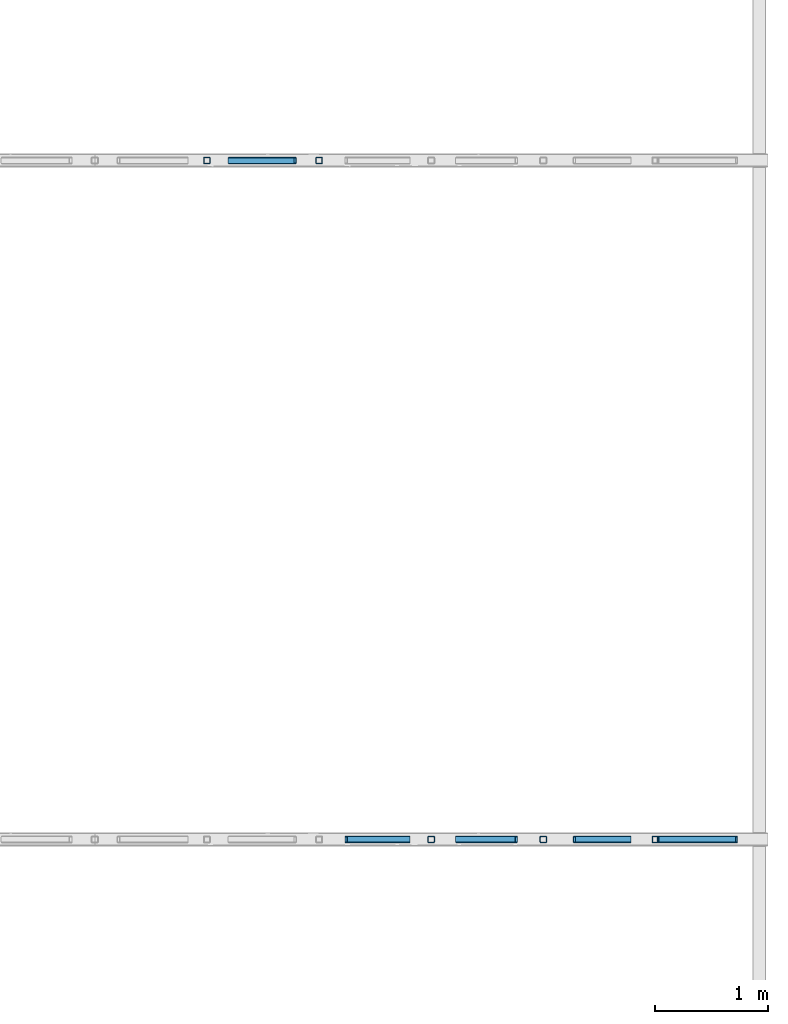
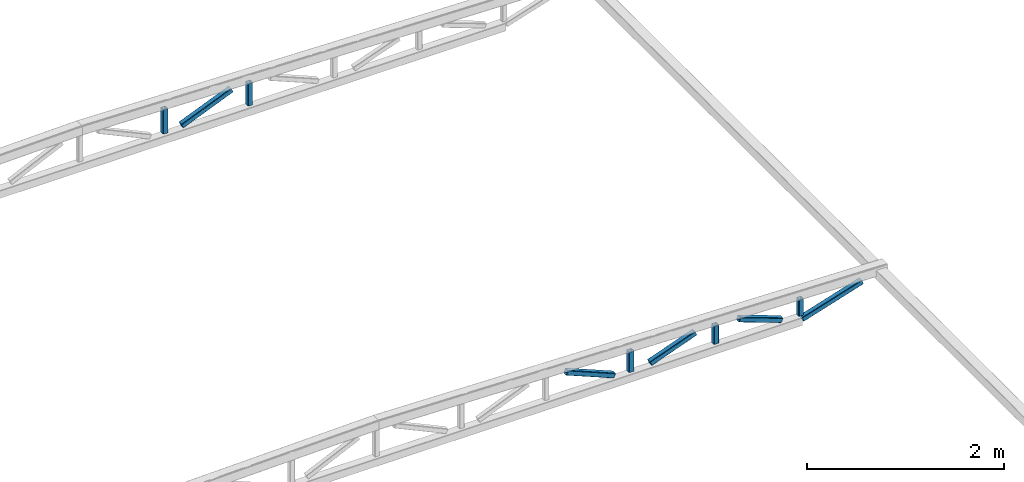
# One storey, part 9 of 10: 10 members, 2 elements without a shape of their own.
"""IFC2X3 building model written with IfcOpenShell, lengths in millimetres."""

from ifc_helpers import new_model, entity, si_unit, converted_unit, derived_unit, direction, frame, frame_2d, origin, place, context, subcontext, project, spatial, polyline, circle_curve, parameter, trimmed, segment, composite_curve, outline, extrude, source, transform, mapped, type_object, type_shapes, element, aggregate, save


model = new_model("IFC2X3")

# Units and contexts
model_context = context("Model", 3, precision=0.01, world=origin(), true_north=direction((6.12303176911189e-17, 1.0)))
body_context = subcontext(model_context, "Body", "Model", "MODEL_VIEW")
ifc_project = project(units=[si_unit("LENGTHUNIT", "METRE", prefix="MILLI"), si_unit("AREAUNIT", "SQUARE_METRE"), si_unit("VOLUMEUNIT", "CUBIC_METRE"), converted_unit("PLANEANGLEUNIT", "DEGREE", entity("IfcRatioMeasure", 0.0174532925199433), si_unit("PLANEANGLEUNIT", "RADIAN"), dimensions=[0, 0, 0, 0, 0, 0, 0]), si_unit("MASSUNIT", "GRAM", prefix="KILO"), derived_unit("MASSDENSITYUNIT", [(si_unit("MASSUNIT", "GRAM", prefix="KILO"), 1), (si_unit("LENGTHUNIT", "METRE"), -3)]), si_unit("TIMEUNIT", "SECOND"), si_unit("FREQUENCYUNIT", "HERTZ"), si_unit("THERMODYNAMICTEMPERATUREUNIT", "DEGREE_CELSIUS"), derived_unit("THERMALTRANSMITTANCEUNIT", [(si_unit("MASSUNIT", "GRAM", prefix="KILO"), 1), (si_unit("THERMODYNAMICTEMPERATUREUNIT", "KELVIN"), -1), (si_unit("TIMEUNIT", "SECOND"), -3)]), derived_unit("VOLUMETRICFLOWRATEUNIT", [(si_unit("LENGTHUNIT", "METRE"), 3), (si_unit("TIMEUNIT", "SECOND"), -1)]), si_unit("ELECTRICCURRENTUNIT", "AMPERE"), si_unit("ELECTRICVOLTAGEUNIT", "VOLT"), si_unit("POWERUNIT", "WATT"), si_unit("FORCEUNIT", "NEWTON", prefix="KILO"), si_unit("ILLUMINANCEUNIT", "LUX"), si_unit("LUMINOUSFLUXUNIT", "LUMEN"), si_unit("LUMINOUSINTENSITYUNIT", "CANDELA"), derived_unit("USERDEFINED", [(si_unit("MASSUNIT", "GRAM", prefix="KILO"), -1), (si_unit("LENGTHUNIT", "METRE"), -2), (si_unit("TIMEUNIT", "SECOND"), 3), (si_unit("LUMINOUSFLUXUNIT", "LUMEN"), 1)]), derived_unit("LINEARVELOCITYUNIT", [(si_unit("LENGTHUNIT", "METRE"), 1), (si_unit("TIMEUNIT", "SECOND"), -1)]), si_unit("PRESSUREUNIT", "PASCAL"), derived_unit("USERDEFINED", [(si_unit("LENGTHUNIT", "METRE"), -2), (si_unit("MASSUNIT", "GRAM", prefix="KILO"), 1), (si_unit("TIMEUNIT", "SECOND"), -2)])], contexts=[model_context])

# Site, building, storey
site_placement = place(None, frame((0.0, 0.0, 101000.0)))
site = spatial("IfcSite", under=ifc_project, at=site_placement, Name="Default", CompositionType="ELEMENT")
building_placement = place(site_placement, origin())
building = spatial("IfcBuilding", under=site, at=building_placement, CompositionType="ELEMENT")
storey_placement = place(building_placement, frame((0.0, 0.0, 6025.0)))
storey = spatial("IfcBuildingStorey", under=building, at=storey_placement, Name="03", CompositionType="ELEMENT", Elevation=6024.9999999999)

# Assembly, member
assembly_1_placement = place(storey_placement, origin())
assembly_1 = element("IfcElementAssembly", 1, at=assembly_1_placement, inside=storey, Name="Gitterdrager:Standard", ObjectType="Gitterdrager:Standard", AssemblyPlace="NOTDEFINED", PredefinedType="TRUSS")
member_type_1 = type_object("IfcMemberType", Name="60x60x5", PredefinedType="BRACE")
shared_shape_1 = source(origin(), body_context, "Body", "SweptSolid", [
    extrude(outline(composite_curve([segment(trimmed(circle_curve(frame_2d((-20.0, -20.0), x_axis=(1.0, 0.0)), 10.0), [parameter(180.0)], [parameter(270.0)], True, "PARAMETER"), True, "CONTINUOUS"), segment(polyline([(-20.0, -30.0), (20.0, -30.0)]), True, "CONTINUOUS"), segment(trimmed(circle_curve(frame_2d((20.0, -20.0), x_axis=(1.0, 0.0)), 10.0), [parameter(270.0)], [parameter(5.08888749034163e-14)], True, "PARAMETER"), True, "CONTINUOUS"), segment(polyline([(30.0, -20.0), (30.0, 20.0)]), True, "CONTINUOUS"), segment(trimmed(circle_curve(frame_2d((20.0, 20.0), x_axis=(1.0, 0.0)), 10.0), [parameter(360.0)], [parameter(89.9999999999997)], True, "PARAMETER"), True, "CONTINUOUS"), segment(polyline([(20.0, 30.0), (-20.0, 30.0)]), True, "CONTINUOUS"), segment(trimmed(circle_curve(frame_2d((-20.0, 20.0), x_axis=(1.0, 0.0)), 10.0), [parameter(90.0000000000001)], [parameter(180.0)], True, "PARAMETER"), True, "CONTINUOUS"), segment(polyline([(-30.0, 20.0), (-30.0, -20.0)]), True, "CONTINUOUS")], self_intersect=False), holes=[composite_curve([segment(polyline([(20.0, -25.0), (-20.0, -25.0)]), True, "CONTINUOUS"), segment(trimmed(circle_curve(frame_2d((-20.0, -20.0), x_axis=(1.0, 0.0)), 5.0), [parameter(180.0)], [parameter(270.0)], True, "PARAMETER"), False, "CONTINUOUS"), segment(polyline([(-25.0, -20.0), (-25.0, 20.0)]), True, "CONTINUOUS"), segment(trimmed(circle_curve(frame_2d((-20.0, 20.0), x_axis=(1.0, 0.0)), 5.0), [parameter(90.0000000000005)], [parameter(180.0)], True, "PARAMETER"), False, "CONTINUOUS"), segment(polyline([(-20.0, 25.0), (20.0, 25.0)]), True, "CONTINUOUS"), segment(trimmed(circle_curve(frame_2d((20.0, 20.0), x_axis=(1.0, 0.0)), 5.0), [parameter(0.0)], [parameter(90.0000000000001)], True, "PARAMETER"), False, "CONTINUOUS"), segment(polyline([(25.0, 20.0), (25.0, -20.0)]), True, "CONTINUOUS"), segment(trimmed(circle_curve(frame_2d((20.0, -20.0), x_axis=(1.0, 0.0)), 5.0), [parameter(270.0)], [parameter(4.57999874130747e-13)], True, "PARAMETER"), False, "CONTINUOUS")], self_intersect=False)]), frame((-155.792423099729, 0.0, 0.0), z_axis=(1.0, 0.0, 0.0), x_axis=(0.0, -1.0, 0.0)), (0.0, 0.0, 1.0), 300.049419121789),
])
type_shapes(member_type_1, [shared_shape_1])
member_1_placement = place(assembly_1_placement, frame((18219.5978303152, 38432.1864743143, -122.531331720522), z_axis=(1.0, 0.0, 0.0), x_axis=(0.0, 0.0, 1.0)))
member_1 = element("IfcMember", 2, at=member_1_placement, type_object=member_type_1, Name="Bjelke HUP:60x60x5", ObjectType="60x60x5", context=body_context, shape_type="MappedRepresentation", body=[
    mapped(shared_shape_1, transform((0.0, 0.0, 0.0), scale=1.0)),
])

# Assembly, members
assembly_2_placement = place(storey_placement, origin())
assembly_2 = element("IfcElementAssembly", 3, at=assembly_2_placement, inside=storey, Name="Gitterdrager:Standard", ObjectType="Gitterdrager:Standard", AssemblyPlace="NOTDEFINED", PredefinedType="TRUSS")
member_type_2 = type_object("IfcMemberType", Name="60x60x5", PredefinedType="BRACE")
shared_shape_2 = source(origin(), body_context, "Body", "SweptSolid", [
    extrude(outline(composite_curve([segment(trimmed(circle_curve(frame_2d((-20.0, -20.0), x_axis=(1.0, 0.0)), 10.0), [parameter(180.0)], [parameter(270.0)], True, "PARAMETER"), True, "CONTINUOUS"), segment(polyline([(-20.0, -30.0), (20.0, -30.0)]), True, "CONTINUOUS"), segment(trimmed(circle_curve(frame_2d((20.0, -20.0), x_axis=(1.0, 0.0)), 10.0), [parameter(270.0)], [parameter(5.08888749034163e-14)], True, "PARAMETER"), True, "CONTINUOUS"), segment(polyline([(30.0, -20.0), (30.0, 20.0)]), True, "CONTINUOUS"), segment(trimmed(circle_curve(frame_2d((20.0, 20.0), x_axis=(1.0, 0.0)), 10.0), [parameter(360.0)], [parameter(89.9999999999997)], True, "PARAMETER"), True, "CONTINUOUS"), segment(polyline([(20.0, 30.0), (-20.0, 30.0)]), True, "CONTINUOUS"), segment(trimmed(circle_curve(frame_2d((-20.0, 20.0), x_axis=(1.0, 0.0)), 10.0), [parameter(90.0000000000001)], [parameter(180.0)], True, "PARAMETER"), True, "CONTINUOUS"), segment(polyline([(-30.0, 20.0), (-30.0, -20.0)]), True, "CONTINUOUS")], self_intersect=False), holes=[composite_curve([segment(polyline([(20.0, -25.0), (-20.0, -25.0)]), True, "CONTINUOUS"), segment(trimmed(circle_curve(frame_2d((-20.0, -20.0), x_axis=(1.0, 0.0)), 5.0), [parameter(180.0)], [parameter(270.0)], True, "PARAMETER"), False, "CONTINUOUS"), segment(polyline([(-25.0, -20.0), (-25.0, 20.0)]), True, "CONTINUOUS"), segment(trimmed(circle_curve(frame_2d((-20.0, 20.0), x_axis=(1.0, 0.0)), 5.0), [parameter(90.0000000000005)], [parameter(180.0)], True, "PARAMETER"), False, "CONTINUOUS"), segment(polyline([(-20.0, 25.0), (20.0, 25.0)]), True, "CONTINUOUS"), segment(trimmed(circle_curve(frame_2d((20.0, 20.0), x_axis=(1.0, 0.0)), 5.0), [parameter(0.0)], [parameter(90.0000000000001)], True, "PARAMETER"), False, "CONTINUOUS"), segment(polyline([(25.0, 20.0), (25.0, -20.0)]), True, "CONTINUOUS"), segment(trimmed(circle_curve(frame_2d((20.0, -20.0), x_axis=(1.0, 0.0)), 5.0), [parameter(270.0)], [parameter(4.57999874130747e-13)], True, "PARAMETER"), False, "CONTINUOUS")], self_intersect=False)]), frame((-130.995453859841, 0.0, 0.0), z_axis=(1.0, 0.0, 0.0), x_axis=(0.0, -1.0, 0.0)), (0.0, 0.0, 1.0), 250.455480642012),
])
type_shapes(member_type_2, [shared_shape_2])
member_2_placement = place(assembly_2_placement, frame((20206.2644969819, 32417.9507529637, -147.328300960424), z_axis=(1.0, 0.0, 0.0), x_axis=(0.0, 0.0, 1.0)))
member_2 = element("IfcMember", 4, at=member_2_placement, type_object=member_type_2, Name="Bjelke HUP:60x60x5", ObjectType="60x60x5", context=body_context, shape_type="MappedRepresentation", body=[
    mapped(shared_shape_2, transform((0.0, 0.0, 0.0), scale=1.0)),
])
member_type_3 = type_object("IfcMemberType", Name="60x60x5", PredefinedType="BRACE")
shared_shape_3 = source(origin(), body_context, "Body", "SweptSolid", [
    extrude(outline(composite_curve([segment(trimmed(circle_curve(frame_2d((-20.0, -20.0), x_axis=(1.0, 0.0)), 10.0), [parameter(180.0)], [parameter(270.0)], True, "PARAMETER"), True, "CONTINUOUS"), segment(polyline([(-20.0, -30.0), (20.0, -30.0)]), True, "CONTINUOUS"), segment(trimmed(circle_curve(frame_2d((20.0, -20.0), x_axis=(1.0, 0.0)), 10.0), [parameter(270.0)], [parameter(5.08888749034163e-14)], True, "PARAMETER"), True, "CONTINUOUS"), segment(polyline([(30.0, -20.0), (30.0, 20.0)]), True, "CONTINUOUS"), segment(trimmed(circle_curve(frame_2d((20.0, 20.0), x_axis=(1.0, 0.0)), 10.0), [parameter(360.0)], [parameter(89.9999999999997)], True, "PARAMETER"), True, "CONTINUOUS"), segment(polyline([(20.0, 30.0), (-20.0, 30.0)]), True, "CONTINUOUS"), segment(trimmed(circle_curve(frame_2d((-20.0, 20.0), x_axis=(1.0, 0.0)), 10.0), [parameter(90.0000000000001)], [parameter(180.0)], True, "PARAMETER"), True, "CONTINUOUS"), segment(polyline([(-30.0, 20.0), (-30.0, -20.0)]), True, "CONTINUOUS")], self_intersect=False), holes=[composite_curve([segment(polyline([(20.0, -25.0), (-20.0, -25.0)]), True, "CONTINUOUS"), segment(trimmed(circle_curve(frame_2d((-20.0, -20.0), x_axis=(1.0, 0.0)), 5.0), [parameter(180.0)], [parameter(270.0)], True, "PARAMETER"), False, "CONTINUOUS"), segment(polyline([(-25.0, -20.0), (-25.0, 20.0)]), True, "CONTINUOUS"), segment(trimmed(circle_curve(frame_2d((-20.0, 20.0), x_axis=(1.0, 0.0)), 5.0), [parameter(90.0000000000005)], [parameter(180.0)], True, "PARAMETER"), False, "CONTINUOUS"), segment(polyline([(-20.0, 25.0), (20.0, 25.0)]), True, "CONTINUOUS"), segment(trimmed(circle_curve(frame_2d((20.0, 20.0), x_axis=(1.0, 0.0)), 5.0), [parameter(0.0)], [parameter(90.0000000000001)], True, "PARAMETER"), False, "CONTINUOUS"), segment(polyline([(25.0, 20.0), (25.0, -20.0)]), True, "CONTINUOUS"), segment(trimmed(circle_curve(frame_2d((20.0, -20.0), x_axis=(1.0, 0.0)), 5.0), [parameter(270.0)], [parameter(4.57999874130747e-13)], True, "PARAMETER"), False, "CONTINUOUS")], self_intersect=False)]), frame((-118.596969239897, 0.0, 0.0), z_axis=(1.0, 0.0, 0.0), x_axis=(0.0, -1.0, 0.0)), (0.0, 0.0, 1.0), 225.658511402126),
])
type_shapes(member_type_3, [shared_shape_3])
member_3_placement = place(assembly_2_placement, frame((21199.5978303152, 32417.9507529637, -159.726785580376), z_axis=(1.0, 0.0, 0.0), x_axis=(0.0, 0.0, 1.0)))
member_3 = element("IfcMember", 5, at=member_3_placement, type_object=member_type_3, Name="Bjelke HUP:60x60x5", ObjectType="60x60x5", context=body_context, shape_type="MappedRepresentation", body=[
    mapped(shared_shape_3, transform((0.0, 0.0, 0.0), scale=1.0)),
])

# Member
member_type_4 = type_object("IfcMemberType", Name="60x60x5", PredefinedType="BRACE")
shared_shape_4 = source(origin(), body_context, "Body", "SweptSolid", [
    extrude(outline(composite_curve([segment(trimmed(circle_curve(frame_2d((-20.0, -20.0), x_axis=(1.0, 0.0)), 10.0), [parameter(180.0)], [parameter(270.0)], True, "PARAMETER"), True, "CONTINUOUS"), segment(polyline([(-20.0, -30.0), (20.0, -30.0)]), True, "CONTINUOUS"), segment(trimmed(circle_curve(frame_2d((20.0, -20.0), x_axis=(1.0, 0.0)), 10.0), [parameter(270.0)], [parameter(5.08888749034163e-14)], True, "PARAMETER"), True, "CONTINUOUS"), segment(polyline([(30.0, -20.0), (30.0, 20.0)]), True, "CONTINUOUS"), segment(trimmed(circle_curve(frame_2d((20.0, 20.0), x_axis=(1.0, 0.0)), 10.0), [parameter(360.0)], [parameter(89.9999999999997)], True, "PARAMETER"), True, "CONTINUOUS"), segment(polyline([(20.0, 30.0), (-20.0, 30.0)]), True, "CONTINUOUS"), segment(trimmed(circle_curve(frame_2d((-20.0, 20.0), x_axis=(1.0, 0.0)), 10.0), [parameter(90.0000000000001)], [parameter(180.0)], True, "PARAMETER"), True, "CONTINUOUS"), segment(polyline([(-30.0, 20.0), (-30.0, -20.0)]), True, "CONTINUOUS")], self_intersect=False), holes=[composite_curve([segment(polyline([(20.0, -25.0), (-20.0, -25.0)]), True, "CONTINUOUS"), segment(trimmed(circle_curve(frame_2d((-20.0, -20.0), x_axis=(1.0, 0.0)), 5.0), [parameter(180.0)], [parameter(270.0)], True, "PARAMETER"), False, "CONTINUOUS"), segment(polyline([(-25.0, -20.0), (-25.0, 20.0)]), True, "CONTINUOUS"), segment(trimmed(circle_curve(frame_2d((-20.0, 20.0), x_axis=(1.0, 0.0)), 5.0), [parameter(90.0000000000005)], [parameter(180.0)], True, "PARAMETER"), False, "CONTINUOUS"), segment(polyline([(-20.0, 25.0), (20.0, 25.0)]), True, "CONTINUOUS"), segment(trimmed(circle_curve(frame_2d((20.0, 20.0), x_axis=(1.0, 0.0)), 5.0), [parameter(0.0)], [parameter(90.0000000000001)], True, "PARAMETER"), False, "CONTINUOUS"), segment(polyline([(25.0, 20.0), (25.0, -20.0)]), True, "CONTINUOUS"), segment(trimmed(circle_curve(frame_2d((20.0, -20.0), x_axis=(1.0, 0.0)), 5.0), [parameter(270.0)], [parameter(4.57999874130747e-13)], True, "PARAMETER"), False, "CONTINUOUS")], self_intersect=False)]), frame((-143.393938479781, 0.0, 0.0), z_axis=(1.0, 0.0, 0.0), x_axis=(0.0, -1.0, 0.0)), (0.0, 0.0, 1.0), 275.252449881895),
])
type_shapes(member_type_4, [shared_shape_4])
member_4_placement = place(assembly_1_placement, frame((19212.9311636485, 38432.1864743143, -134.929816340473), z_axis=(1.0, 0.0, 0.0), x_axis=(0.0, 0.0, 1.0)))
member_4 = element("IfcMember", 6, at=member_4_placement, type_object=member_type_4, Name="Bjelke HUP:60x60x5", ObjectType="60x60x5", context=body_context, shape_type="MappedRepresentation", body=[
    mapped(shared_shape_4, transform((0.0, 0.0, 0.0), scale=1.0)),
])

member_type_5 = type_object("IfcMemberType", Name="60x60x5", PredefinedType="BRACE")
shared_shape_5 = source(origin(), body_context, "Body", "SweptSolid", [
    extrude(outline(composite_curve([segment(trimmed(circle_curve(frame_2d((-20.0, -20.0), x_axis=(1.0, 0.0)), 10.0), [parameter(180.0)], [parameter(270.0)], True, "PARAMETER"), True, "CONTINUOUS"), segment(polyline([(-20.0, -30.0), (20.0, -30.0)]), True, "CONTINUOUS"), segment(trimmed(circle_curve(frame_2d((20.0, -20.0), x_axis=(1.0, 0.0)), 10.0), [parameter(270.0)], [parameter(5.08888749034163e-14)], True, "PARAMETER"), True, "CONTINUOUS"), segment(polyline([(30.0, -20.0), (30.0, 20.0)]), True, "CONTINUOUS"), segment(trimmed(circle_curve(frame_2d((20.0, 20.0), x_axis=(1.0, 0.0)), 10.0), [parameter(360.0)], [parameter(89.9999999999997)], True, "PARAMETER"), True, "CONTINUOUS"), segment(polyline([(20.0, 30.0), (-20.0, 30.0)]), True, "CONTINUOUS"), segment(trimmed(circle_curve(frame_2d((-20.0, 20.0), x_axis=(1.0, 0.0)), 10.0), [parameter(90.0000000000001)], [parameter(180.0)], True, "PARAMETER"), True, "CONTINUOUS"), segment(polyline([(-30.0, 20.0), (-30.0, -20.0)]), True, "CONTINUOUS")], self_intersect=False), holes=[composite_curve([segment(polyline([(20.0, -25.0), (-20.0, -25.0)]), True, "CONTINUOUS"), segment(trimmed(circle_curve(frame_2d((-20.0, -20.0), x_axis=(1.0, 0.0)), 5.0), [parameter(180.0)], [parameter(270.0)], True, "PARAMETER"), False, "CONTINUOUS"), segment(polyline([(-25.0, -20.0), (-25.0, 20.0)]), True, "CONTINUOUS"), segment(trimmed(circle_curve(frame_2d((-20.0, 20.0), x_axis=(1.0, 0.0)), 5.0), [parameter(90.0000000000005)], [parameter(180.0)], True, "PARAMETER"), False, "CONTINUOUS"), segment(polyline([(-20.0, 25.0), (20.0, 25.0)]), True, "CONTINUOUS"), segment(trimmed(circle_curve(frame_2d((20.0, 20.0), x_axis=(1.0, 0.0)), 5.0), [parameter(0.0)], [parameter(90.0000000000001)], True, "PARAMETER"), False, "CONTINUOUS"), segment(polyline([(25.0, 20.0), (25.0, -20.0)]), True, "CONTINUOUS"), segment(trimmed(circle_curve(frame_2d((20.0, -20.0), x_axis=(1.0, 0.0)), 5.0), [parameter(270.0)], [parameter(4.57999874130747e-13)], True, "PARAMETER"), False, "CONTINUOUS")], self_intersect=False)]), frame((-106.198484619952, 0.0, 0.0), z_axis=(1.0, 0.0, 0.0), x_axis=(0.0, -1.0, 0.0)), (0.0, 0.0, 1.0), 200.861542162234),
])
type_shapes(member_type_5, [shared_shape_5])
member_5_placement = place(assembly_2_placement, frame((22192.9311636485, 32417.9507529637, -172.125270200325), z_axis=(1.0, 0.0, 0.0), x_axis=(0.0, 0.0, 1.0)))
member_5 = element("IfcMember", 7, at=member_5_placement, type_object=member_type_5, Name="Bjelke HUP:60x60x5", ObjectType="60x60x5", context=body_context, shape_type="MappedRepresentation", body=[
    mapped(shared_shape_5, transform((0.0, 0.0, 0.0), scale=1.0)),
])

member_type_6 = type_object("IfcMemberType", Name="60x60x5", PredefinedType="BRACE")
shared_shape_6 = source(origin(), body_context, "Body", "SweptSolid", [
    extrude(outline(composite_curve([segment(trimmed(circle_curve(frame_2d((-20.0, -20.0), x_axis=(1.0, 0.0)), 10.0), [parameter(180.0)], [parameter(270.0)], True, "PARAMETER"), True, "CONTINUOUS"), segment(polyline([(-20.0, -30.0), (20.0, -30.0)]), True, "CONTINUOUS"), segment(trimmed(circle_curve(frame_2d((20.0, -20.0), x_axis=(1.0, 0.0)), 10.0), [parameter(270.0)], [parameter(5.08888749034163e-14)], True, "PARAMETER"), True, "CONTINUOUS"), segment(polyline([(30.0, -20.0), (30.0, 20.0)]), True, "CONTINUOUS"), segment(trimmed(circle_curve(frame_2d((20.0, 20.0), x_axis=(1.0, 0.0)), 10.0), [parameter(360.0)], [parameter(89.9999999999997)], True, "PARAMETER"), True, "CONTINUOUS"), segment(polyline([(20.0, 30.0), (-20.0, 30.0)]), True, "CONTINUOUS"), segment(trimmed(circle_curve(frame_2d((-20.0, 20.0), x_axis=(1.0, 0.0)), 10.0), [parameter(90.0000000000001)], [parameter(180.0)], True, "PARAMETER"), True, "CONTINUOUS"), segment(polyline([(-30.0, 20.0), (-30.0, -20.0)]), True, "CONTINUOUS")], self_intersect=False), holes=[composite_curve([segment(polyline([(20.0, -25.0), (-20.0, -25.0)]), True, "CONTINUOUS"), segment(trimmed(circle_curve(frame_2d((-20.0, -20.0), x_axis=(1.0, 0.0)), 5.0), [parameter(180.0)], [parameter(270.0)], True, "PARAMETER"), False, "CONTINUOUS"), segment(polyline([(-25.0, -20.0), (-25.0, 20.0)]), True, "CONTINUOUS"), segment(trimmed(circle_curve(frame_2d((-20.0, 20.0), x_axis=(1.0, 0.0)), 5.0), [parameter(90.0000000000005)], [parameter(180.0)], True, "PARAMETER"), False, "CONTINUOUS"), segment(polyline([(-20.0, 25.0), (20.0, 25.0)]), True, "CONTINUOUS"), segment(trimmed(circle_curve(frame_2d((20.0, 20.0), x_axis=(1.0, 0.0)), 5.0), [parameter(0.0)], [parameter(90.0000000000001)], True, "PARAMETER"), False, "CONTINUOUS"), segment(polyline([(25.0, 20.0), (25.0, -20.0)]), True, "CONTINUOUS"), segment(trimmed(circle_curve(frame_2d((20.0, -20.0), x_axis=(1.0, 0.0)), 5.0), [parameter(270.0)], [parameter(4.57999874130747e-13)], True, "PARAMETER"), False, "CONTINUOUS")], self_intersect=False)]), frame((-322.274622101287, 0.0, 0.0), z_axis=(1.0, 0.0, 0.0), x_axis=(0.0, -1.0, 0.0)), (0.0, 0.0, 1.0), 630.214484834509),
])
type_shapes(member_type_6, [shared_shape_6])
member_6_placement = place(assembly_1_placement, frame((18716.2644969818, 38432.1864743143, -134.929816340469), z_axis=(0.383267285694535, 0.0, -0.923637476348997), x_axis=(0.923637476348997, 0.0, 0.383267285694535)))
member_6 = element("IfcMember", 8, at=member_6_placement, type_object=member_type_6, Name="Bjelke HUP:60x60x5", ObjectType="60x60x5", context=body_context, shape_type="MappedRepresentation", body=[
    mapped(shared_shape_6, transform((0.0, 0.0, 0.0), scale=1.0)),
])

aggregate(assembly_1, [member_1, member_4, member_6])

member_type_7 = type_object("IfcMemberType", Name="60x60x5", PredefinedType="BRACE")
shared_shape_7 = source(origin(), body_context, "Body", "SweptSolid", [
    extrude(outline(composite_curve([segment(trimmed(circle_curve(frame_2d((-20.0, -20.0), x_axis=(1.0, 0.0)), 10.0), [parameter(180.0)], [parameter(270.0)], True, "PARAMETER"), True, "CONTINUOUS"), segment(polyline([(-20.0, -30.0), (20.0, -30.0)]), True, "CONTINUOUS"), segment(trimmed(circle_curve(frame_2d((20.0, -20.0), x_axis=(1.0, 0.0)), 10.0), [parameter(270.0)], [parameter(5.08888749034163e-14)], True, "PARAMETER"), True, "CONTINUOUS"), segment(polyline([(30.0, -20.0), (30.0, 20.0)]), True, "CONTINUOUS"), segment(trimmed(circle_curve(frame_2d((20.0, 20.0), x_axis=(1.0, 0.0)), 10.0), [parameter(360.0)], [parameter(89.9999999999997)], True, "PARAMETER"), True, "CONTINUOUS"), segment(polyline([(20.0, 30.0), (-20.0, 30.0)]), True, "CONTINUOUS"), segment(trimmed(circle_curve(frame_2d((-20.0, 20.0), x_axis=(1.0, 0.0)), 10.0), [parameter(90.0000000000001)], [parameter(180.0)], True, "PARAMETER"), True, "CONTINUOUS"), segment(polyline([(-30.0, 20.0), (-30.0, -20.0)]), True, "CONTINUOUS")], self_intersect=False), holes=[composite_curve([segment(polyline([(20.0, -25.0), (-20.0, -25.0)]), True, "CONTINUOUS"), segment(trimmed(circle_curve(frame_2d((-20.0, -20.0), x_axis=(1.0, 0.0)), 5.0), [parameter(180.0)], [parameter(270.0)], True, "PARAMETER"), False, "CONTINUOUS"), segment(polyline([(-25.0, -20.0), (-25.0, 20.0)]), True, "CONTINUOUS"), segment(trimmed(circle_curve(frame_2d((-20.0, 20.0), x_axis=(1.0, 0.0)), 5.0), [parameter(90.0000000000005)], [parameter(180.0)], True, "PARAMETER"), False, "CONTINUOUS"), segment(polyline([(-20.0, 25.0), (20.0, 25.0)]), True, "CONTINUOUS"), segment(trimmed(circle_curve(frame_2d((20.0, 20.0), x_axis=(1.0, 0.0)), 5.0), [parameter(0.0)], [parameter(90.0000000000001)], True, "PARAMETER"), False, "CONTINUOUS"), segment(polyline([(25.0, 20.0), (25.0, -20.0)]), True, "CONTINUOUS"), segment(trimmed(circle_curve(frame_2d((20.0, -20.0), x_axis=(1.0, 0.0)), 5.0), [parameter(270.0)], [parameter(4.57999874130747e-13)], True, "PARAMETER"), False, "CONTINUOUS")], self_intersect=False)]), frame((-278.55434519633, 0.0, 0.0), z_axis=(1.0, 0.0, 0.0), x_axis=(0.0, -1.0, 0.0)), (0.0, 0.0, 1.0), 600.828967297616),
])
type_shapes(member_type_7, [shared_shape_7])
member_7_placement = place(assembly_2_placement, frame((19709.5978303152, 32417.9507529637, -134.929816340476), z_axis=(-0.383267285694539, 0.0, -0.923637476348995), x_axis=(0.923637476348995, 0.0, -0.383267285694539)))
member_7 = element("IfcMember", 9, at=member_7_placement, type_object=member_type_7, Name="Bjelke HUP:60x60x5", ObjectType="60x60x5", context=body_context, shape_type="MappedRepresentation", body=[
    mapped(shared_shape_7, transform((0.0, 0.0, 0.0), scale=1.0)),
])

member_type_8 = type_object("IfcMemberType", Name="60x60x5", PredefinedType="BRACE")
shared_shape_8 = source(origin(), body_context, "Body", "SweptSolid", [
    extrude(outline(composite_curve([segment(trimmed(circle_curve(frame_2d((-20.0, -20.0), x_axis=(1.0, 0.0)), 10.0), [parameter(180.0)], [parameter(270.0)], True, "PARAMETER"), True, "CONTINUOUS"), segment(polyline([(-20.0, -30.0), (20.0, -30.0)]), True, "CONTINUOUS"), segment(trimmed(circle_curve(frame_2d((20.0, -20.0), x_axis=(1.0, 0.0)), 10.0), [parameter(270.0)], [parameter(5.08888749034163e-14)], True, "PARAMETER"), True, "CONTINUOUS"), segment(polyline([(30.0, -20.0), (30.0, 20.0)]), True, "CONTINUOUS"), segment(trimmed(circle_curve(frame_2d((20.0, 20.0), x_axis=(1.0, 0.0)), 10.0), [parameter(360.0)], [parameter(89.9999999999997)], True, "PARAMETER"), True, "CONTINUOUS"), segment(polyline([(20.0, 30.0), (-20.0, 30.0)]), True, "CONTINUOUS"), segment(trimmed(circle_curve(frame_2d((-20.0, 20.0), x_axis=(1.0, 0.0)), 10.0), [parameter(90.0000000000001)], [parameter(180.0)], True, "PARAMETER"), True, "CONTINUOUS"), segment(polyline([(-30.0, 20.0), (-30.0, -20.0)]), True, "CONTINUOUS")], self_intersect=False), holes=[composite_curve([segment(polyline([(20.0, -25.0), (-20.0, -25.0)]), True, "CONTINUOUS"), segment(trimmed(circle_curve(frame_2d((-20.0, -20.0), x_axis=(1.0, 0.0)), 5.0), [parameter(180.0)], [parameter(270.0)], True, "PARAMETER"), False, "CONTINUOUS"), segment(polyline([(-25.0, -20.0), (-25.0, 20.0)]), True, "CONTINUOUS"), segment(trimmed(circle_curve(frame_2d((-20.0, 20.0), x_axis=(1.0, 0.0)), 5.0), [parameter(90.0000000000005)], [parameter(180.0)], True, "PARAMETER"), False, "CONTINUOUS"), segment(polyline([(-20.0, 25.0), (20.0, 25.0)]), True, "CONTINUOUS"), segment(trimmed(circle_curve(frame_2d((20.0, 20.0), x_axis=(1.0, 0.0)), 5.0), [parameter(0.0)], [parameter(90.0000000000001)], True, "PARAMETER"), False, "CONTINUOUS"), segment(polyline([(25.0, 20.0), (25.0, -20.0)]), True, "CONTINUOUS"), segment(trimmed(circle_curve(frame_2d((20.0, -20.0), x_axis=(1.0, 0.0)), 5.0), [parameter(270.0)], [parameter(4.57999874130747e-13)], True, "PARAMETER"), False, "CONTINUOUS")], self_intersect=False)]), frame((-288.019442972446, 0.0, 0.0), z_axis=(1.0, 0.0, 0.0), x_axis=(0.0, -1.0, 0.0)), (0.0, 0.0, 1.0), 561.890828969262),
])
type_shapes(member_type_8, [shared_shape_8])
member_8_placement = place(assembly_2_placement, frame((20702.9311636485, 32417.9507529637, -159.726785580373), z_axis=(0.342896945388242, 0.0, -0.939373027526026), x_axis=(0.939373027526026, 0.0, 0.342896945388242)))
member_8 = element("IfcMember", 10, at=member_8_placement, type_object=member_type_8, Name="Bjelke HUP:60x60x5", ObjectType="60x60x5", context=body_context, shape_type="MappedRepresentation", body=[
    mapped(shared_shape_8, transform((0.0, 0.0, 0.0), scale=1.0)),
])

member_type_9 = type_object("IfcMemberType", Name="60x60x5", PredefinedType="BRACE")
shared_shape_9 = source(origin(), body_context, "Body", "SweptSolid", [
    extrude(outline(composite_curve([segment(trimmed(circle_curve(frame_2d((-20.0, -20.0), x_axis=(1.0, 0.0)), 10.0), [parameter(180.0)], [parameter(270.0)], True, "PARAMETER"), True, "CONTINUOUS"), segment(polyline([(-20.0, -30.0), (20.0, -30.0)]), True, "CONTINUOUS"), segment(trimmed(circle_curve(frame_2d((20.0, -20.0), x_axis=(1.0, 0.0)), 10.0), [parameter(270.0)], [parameter(5.08888749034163e-14)], True, "PARAMETER"), True, "CONTINUOUS"), segment(polyline([(30.0, -20.0), (30.0, 20.0)]), True, "CONTINUOUS"), segment(trimmed(circle_curve(frame_2d((20.0, 20.0), x_axis=(1.0, 0.0)), 10.0), [parameter(360.0)], [parameter(89.9999999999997)], True, "PARAMETER"), True, "CONTINUOUS"), segment(polyline([(20.0, 30.0), (-20.0, 30.0)]), True, "CONTINUOUS"), segment(trimmed(circle_curve(frame_2d((-20.0, 20.0), x_axis=(1.0, 0.0)), 10.0), [parameter(90.0000000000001)], [parameter(180.0)], True, "PARAMETER"), True, "CONTINUOUS"), segment(polyline([(-30.0, 20.0), (-30.0, -20.0)]), True, "CONTINUOUS")], self_intersect=False), holes=[composite_curve([segment(polyline([(20.0, -25.0), (-20.0, -25.0)]), True, "CONTINUOUS"), segment(trimmed(circle_curve(frame_2d((-20.0, -20.0), x_axis=(1.0, 0.0)), 5.0), [parameter(180.0)], [parameter(270.0)], True, "PARAMETER"), False, "CONTINUOUS"), segment(polyline([(-25.0, -20.0), (-25.0, 20.0)]), True, "CONTINUOUS"), segment(trimmed(circle_curve(frame_2d((-20.0, 20.0), x_axis=(1.0, 0.0)), 5.0), [parameter(90.0000000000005)], [parameter(180.0)], True, "PARAMETER"), False, "CONTINUOUS"), segment(polyline([(-20.0, 25.0), (20.0, 25.0)]), True, "CONTINUOUS"), segment(trimmed(circle_curve(frame_2d((20.0, 20.0), x_axis=(1.0, 0.0)), 5.0), [parameter(0.0)], [parameter(90.0000000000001)], True, "PARAMETER"), False, "CONTINUOUS"), segment(polyline([(25.0, 20.0), (25.0, -20.0)]), True, "CONTINUOUS"), segment(trimmed(circle_curve(frame_2d((20.0, -20.0), x_axis=(1.0, 0.0)), 5.0), [parameter(270.0)], [parameter(4.57999874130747e-13)], True, "PARAMETER"), False, "CONTINUOUS")], self_intersect=False)]), frame((-236.712172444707, 0.0, 0.0), z_axis=(1.0, 0.0, 0.0), x_axis=(0.0, -1.0, 0.0)), (0.0, 0.0, 1.0), 524.731615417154),
])
type_shapes(member_type_9, [shared_shape_9])
member_9_placement = place(assembly_2_placement, frame((21696.2644969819, 32417.9507529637, -159.726785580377), z_axis=(-0.342896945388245, 0.0, -0.939373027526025), x_axis=(0.939373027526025, 0.0, -0.342896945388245)))
member_9 = element("IfcMember", 11, at=member_9_placement, type_object=member_type_9, Name="Bjelke HUP:60x60x5", ObjectType="60x60x5", context=body_context, shape_type="MappedRepresentation", body=[
    mapped(shared_shape_9, transform((0.0, 0.0, 0.0), scale=1.0)),
])

member_type_10 = type_object("IfcMemberType", Name="60x60x5", PredefinedType="BRACE")
shared_shape_10 = source(origin(), body_context, "Body", "SweptSolid", [
    extrude(outline(composite_curve([segment(trimmed(circle_curve(frame_2d((-20.0, -20.0), x_axis=(1.0, 0.0)), 10.0), [parameter(180.0)], [parameter(270.0)], True, "PARAMETER"), True, "CONTINUOUS"), segment(polyline([(-20.0, -30.0), (20.0, -30.0)]), True, "CONTINUOUS"), segment(trimmed(circle_curve(frame_2d((20.0, -20.0), x_axis=(1.0, 0.0)), 10.0), [parameter(270.0)], [parameter(5.08888749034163e-14)], True, "PARAMETER"), True, "CONTINUOUS"), segment(polyline([(30.0, -20.0), (30.0, 20.0)]), True, "CONTINUOUS"), segment(trimmed(circle_curve(frame_2d((20.0, 20.0), x_axis=(1.0, 0.0)), 10.0), [parameter(360.0)], [parameter(89.9999999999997)], True, "PARAMETER"), True, "CONTINUOUS"), segment(polyline([(20.0, 30.0), (-20.0, 30.0)]), True, "CONTINUOUS"), segment(trimmed(circle_curve(frame_2d((-20.0, 20.0), x_axis=(1.0, 0.0)), 10.0), [parameter(90.0000000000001)], [parameter(180.0)], True, "PARAMETER"), True, "CONTINUOUS"), segment(polyline([(-30.0, 20.0), (-30.0, -20.0)]), True, "CONTINUOUS")], self_intersect=False), holes=[composite_curve([segment(polyline([(20.0, -25.0), (-20.0, -25.0)]), True, "CONTINUOUS"), segment(trimmed(circle_curve(frame_2d((-20.0, -20.0), x_axis=(1.0, 0.0)), 5.0), [parameter(180.0)], [parameter(270.0)], True, "PARAMETER"), False, "CONTINUOUS"), segment(polyline([(-25.0, -20.0), (-25.0, 20.0)]), True, "CONTINUOUS"), segment(trimmed(circle_curve(frame_2d((-20.0, 20.0), x_axis=(1.0, 0.0)), 5.0), [parameter(90.0000000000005)], [parameter(180.0)], True, "PARAMETER"), False, "CONTINUOUS"), segment(polyline([(-20.0, 25.0), (20.0, 25.0)]), True, "CONTINUOUS"), segment(trimmed(circle_curve(frame_2d((20.0, 20.0), x_axis=(1.0, 0.0)), 5.0), [parameter(0.0)], [parameter(90.0000000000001)], True, "PARAMETER"), False, "CONTINUOUS"), segment(polyline([(25.0, 20.0), (25.0, -20.0)]), True, "CONTINUOUS"), segment(trimmed(circle_curve(frame_2d((20.0, -20.0), x_axis=(1.0, 0.0)), 5.0), [parameter(270.0)], [parameter(4.57999874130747e-13)], True, "PARAMETER"), False, "CONTINUOUS")], self_intersect=False)]), frame((-498.586864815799, 0.0, 0.0), z_axis=(1.0, 0.0, 0.0), x_axis=(0.0, -1.0, 0.0)), (0.0, 0.0, 1.0), 731.687840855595),
])
type_shapes(member_type_10, [shared_shape_10])
member_10_placement = place(assembly_2_placement, frame((22689.5978303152, 32417.9507529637, -184.523754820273), z_axis=(0.300533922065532, 0.0, -0.953771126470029), x_axis=(0.953771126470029, 0.0, 0.300533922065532)))
member_10 = element("IfcMember", 12, at=member_10_placement, type_object=member_type_10, Name="Bjelke HUP:60x60x5", ObjectType="60x60x5", context=body_context, shape_type="MappedRepresentation", body=[
    mapped(shared_shape_10, transform((0.0, 0.0, 0.0), scale=1.0)),
])

aggregate(assembly_2, [member_2, member_3, member_5, member_7, member_8, member_9, member_10])

save(model, "model.ifc")
